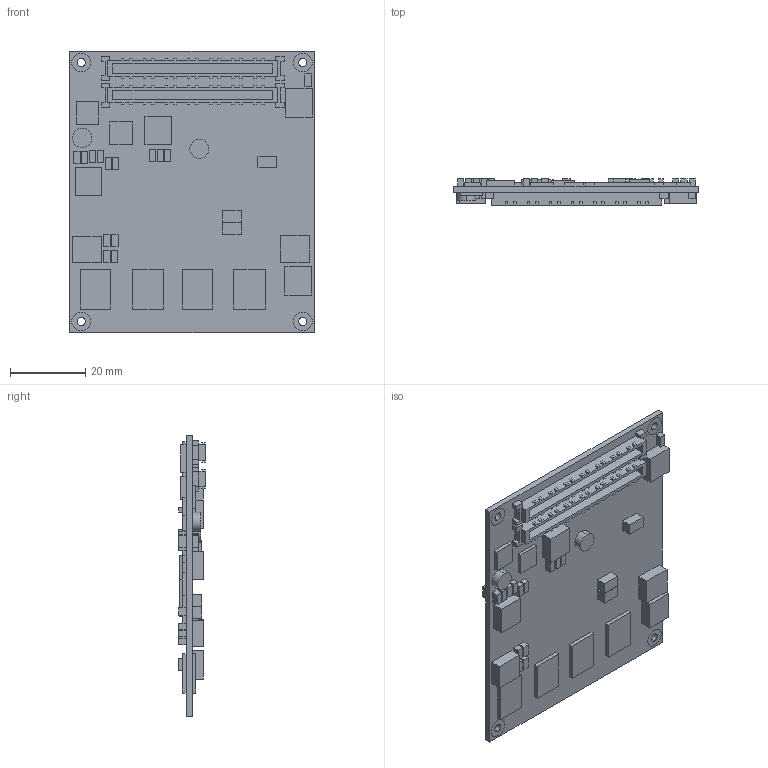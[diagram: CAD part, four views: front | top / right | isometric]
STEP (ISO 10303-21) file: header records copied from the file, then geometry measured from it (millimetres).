
FILE_DESCRIPTION (( 'STEP AP214' ), '1' );
FILE_NAME ('Stock Configuration, CM-iGT.STEP', '2014-06-15T06:51:26', ( '' ), ( '' ), 'SwSTEP 2.0', 'SolidWorks 2011', '' );
FILE_SCHEMA (( 'AUTOMOTIVE_DESIGN' ));
Length unit declared in the file: millimetre
Products named in the file (3): P18 MC-iGT; PCB-CM-iGT; Stock Configuration, CM-iGT
Assembly tree (3 placements, depth 2):
  Stock Configuration, CM-iGT
    P18 MC-iGT  x2
    PCB-CM-iGT
Bounding box: 65 x 7.1 x 75 mm (x, y, z)
Volume: 12494.4 mm3; surface area: 14684.7 mm2
Topology: 3 solids, 3 shells, 685 faces, 1788 edges, 1192 vertices
Faces by surface type: plane 657, cylinder 28
Entity records: 20337 total; most frequent: CARTESIAN_POINT 2828, ORIENTED_EDGE 2736, DIRECTION 2520, EDGE_CURVE 1368, VECTOR 1312, LINE 1312, VERTEX_POINT 912, EDGE_LOOP 632
